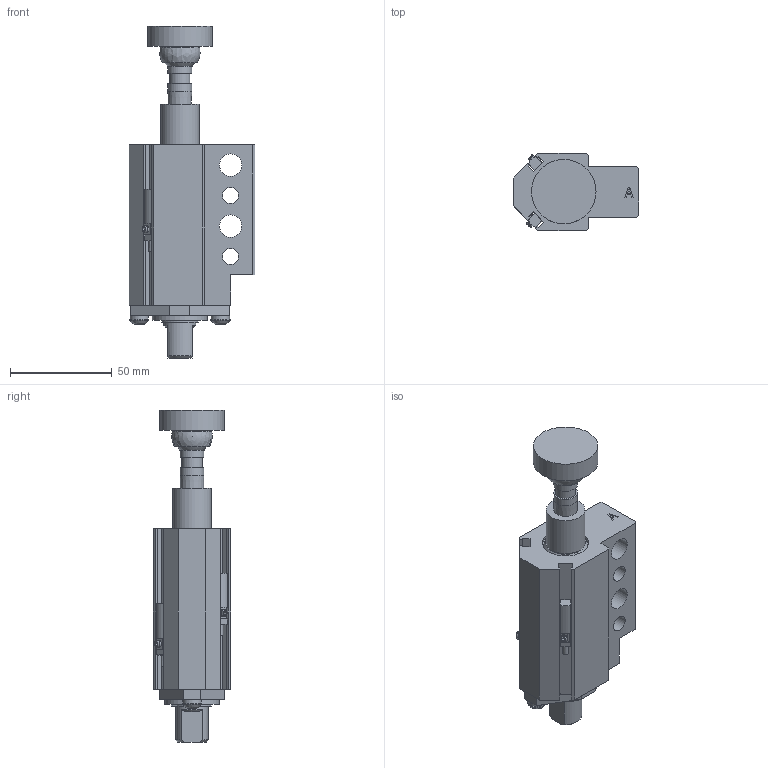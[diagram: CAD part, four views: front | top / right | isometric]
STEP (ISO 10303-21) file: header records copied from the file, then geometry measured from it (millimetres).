
FILE_DESCRIPTION(/* description */ ('MINI PASS THRU GROUND BLOCK'),/* implementation_level */ '2;1');
FILE_NAME(/* name */ 'C:\Vault Workspace\CAD\Welker\Cylinders\GBM\GBMCAL3.stp',/* time_stamp */ '2021-06-25T07:40:03-04:00',/* author */ ('KPL'),/* organization */ (''),/* preprocessor_version */ 'ST-DEVELOPER v18.1',/* originating_system */ 'Autodesk Inventor 2020',/* authorisation */ '');
FILE_SCHEMA (('AUTOMOTIVE_DESIGN { 1 0 10303 214 3 1 1 }'));
Products named in the file (11): GBML01; 91590A126; 96100A152; L3 Sensor 1; M5X0.8-10 BHCS; NL5; GBME01A; GBME02; GBME04; SN-1410; AN-05U2145
Assembly tree (13 placements, depth 2):
  GBML01
    91590A126
    96100A152
    L3 Sensor 1  x2
    M5X0.8-10 BHCS  x2
    NL5  x2
    GBME01A
    GBME02
    GBME04
    SN-1410
    AN-05U2145
Bounding box: 62 x 38.1 x 163.5 mm (x, y, z)
Volume: 136193.7 mm3; surface area: 50985.1 mm2
Topology: 13 solids, 13 shells, 437 faces, 1198 edges, 802 vertices
Faces by surface type: plane 312, cylinder 97, cone 18, torus 4, sphere 4, bspline 2
Full cylindrical faces by diameter (mm): 1.194 x2, 2.9 x2, 4.134 x2, 5 x2, 5.4 x2, 5.5 x2, 6.647 x1, 8 x2, 9 x2, 9.5 x2, 10 x1, 11 x2, 11.76 x2, 14.935 x1, 15.875 x3, 16.383 x1, 19.05 x1, 19.177 x1, 22.225 x2, 22.784 x1, 24.613 x1, 25.654 x1, 25.705 x1, 26.987 x1, 28.591 x1, 28.667 x1, 31.75 x1
Entity records: 9983 total; most frequent: CARTESIAN_POINT 1738, DIRECTION 1662, ORIENTED_EDGE 1576, EDGE_CURVE 788, AXIS2_PLACEMENT_3D 573, VERTEX_POINT 539, LINE 516, VECTOR 516
